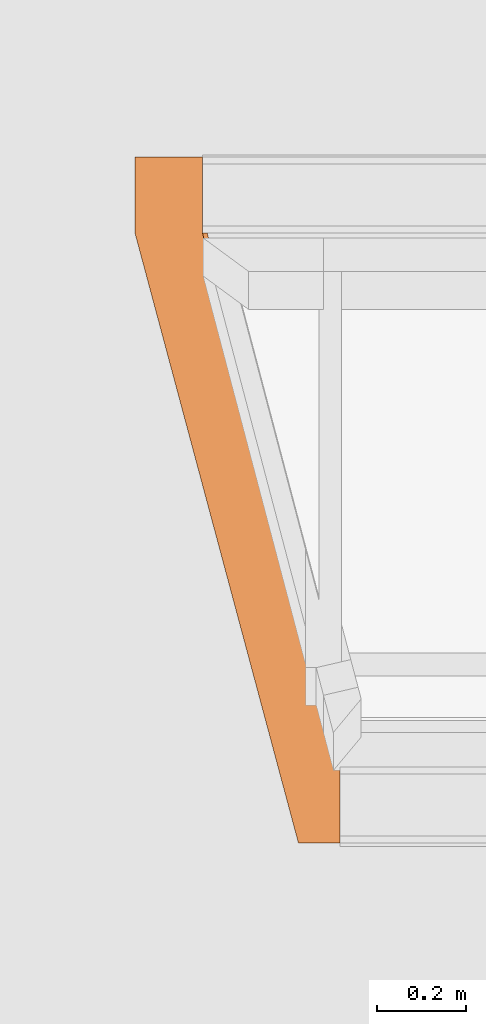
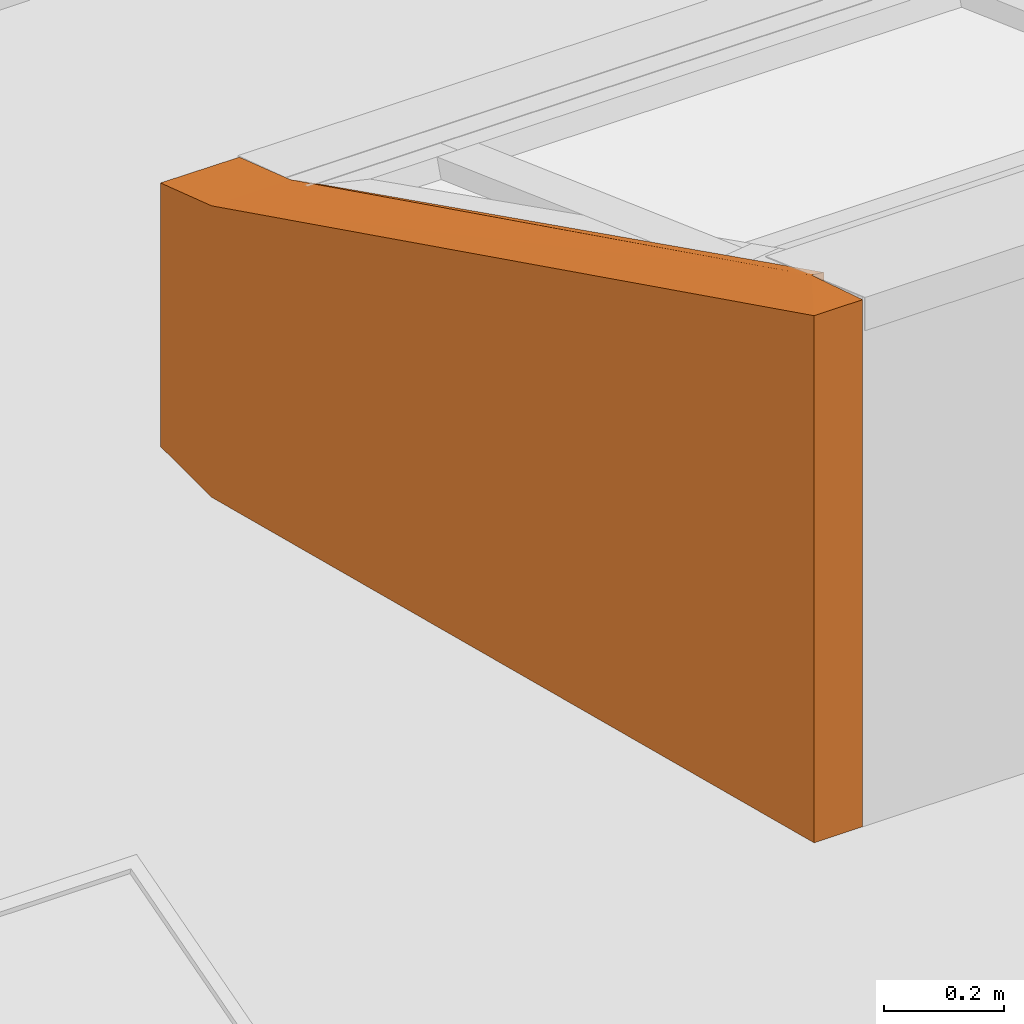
# One storey, part 16 of 20: 1 proxy.
"""IFC2X3 building model written with IfcOpenShell, lengths in millimetres."""

from ifc_helpers import new_model, entity, si_unit, converted_unit, derived_unit, money_unit, direction, frame, origin_with_axes, place, context, subcontext, project, spatial, faceted_brep, source, transform, mapped, material, type_object, type_shapes, element, save


model = new_model("IFC2X3")

# Units and contexts
model_context = context("Model", 3, precision=0.01, world=origin_with_axes(), true_north=direction((0.0, 1.0)))
plan_context = context("Plan", 3, precision=0.01, world=origin_with_axes(), true_north=direction((0.0, 1.0)))
body_context = subcontext(model_context, "Body", "Model", "MODEL_VIEW")
ifc_project = project(units=[si_unit("LENGTHUNIT", "METRE", prefix="MILLI"), si_unit("AREAUNIT", "SQUARE_METRE"), si_unit("VOLUMEUNIT", "CUBIC_METRE"), converted_unit("PLANEANGLEUNIT", "DEGREE", entity("IfcPlaneAngleMeasure", 0.0174532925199), si_unit("PLANEANGLEUNIT", "RADIAN"), dimensions=[0, 0, 0, 0, 0, 0, 0]), si_unit("SOLIDANGLEUNIT", "STERADIAN"), money_unit("EUR"), converted_unit("TIMEUNIT", "Year", entity("IfcTimeMeasure", 31556926.0), si_unit("TIMEUNIT", "SECOND"), dimensions=[0, 0, 1, 0, 0, 0, 0]), si_unit("MASSUNIT", "GRAM", prefix="KILO"), si_unit("THERMODYNAMICTEMPERATUREUNIT", "DEGREE_CELSIUS"), si_unit("LUMINOUSINTENSITYUNIT", "LUMEN"), si_unit("ENERGYUNIT", "JOULE", prefix="MEGA"), derived_unit("THERMALCONDUCTANCEUNIT", [(si_unit("POWERUNIT", "WATT"), 1), (si_unit("LENGTHUNIT", "METRE"), -1), (si_unit("THERMODYNAMICTEMPERATUREUNIT", "KELVIN"), -1)]), derived_unit("SPECIFICHEATCAPACITYUNIT", [(si_unit("ENERGYUNIT", "JOULE"), 1), (si_unit("MASSUNIT", "GRAM", prefix="KILO"), -1), (si_unit("THERMODYNAMICTEMPERATUREUNIT", "KELVIN"), -1)]), derived_unit("MASSDENSITYUNIT", [(si_unit("MASSUNIT", "GRAM", prefix="KILO"), 1), (si_unit("VOLUMEUNIT", "CUBIC_METRE"), -1)])], contexts=[model_context, plan_context])

# Site, building, storey
site_placement = place(None, origin_with_axes())
site = spatial("IfcSite", under=ifc_project, at=site_placement, Name="Site", CompositionType="ELEMENT")
building_placement = place(site_placement, origin_with_axes())
building = spatial("IfcBuilding", under=site, at=building_placement, Name="Naam gebouw", CompositionType="ELEMENT")
storey_placement = place(building_placement, frame((0.0, 0.0, 7920.0), z_axis=(0.0, 0.0, 1.0), x_axis=(1.0, 0.0, 0.0)))
storey = spatial("IfcBuildingStorey", under=building, at=storey_placement, Name="2e verdieping", CompositionType="ELEMENT", Elevation=7920.0)

# Proxy
ifc_material = material(Name="ALG - BINNENAFWERKING")
building_element_proxy_type = type_object("IfcBuildingElementProxyType", Name="ALG - BINNENAFWERKING", PredefinedType="USERDEFINED")
shared_shape = source(origin_with_axes(), body_context, "Body", "Brep", [
    faceted_brep([(-151.674835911, 0.0, 0.0), (-151.674835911, -170.000015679, 0.0), (-151.674835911, -170.000015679, 592.081900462), (-151.674835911, 0.0, 535.485499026), (0.0, 0.0, 0.0), (0.0, -170.000015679, 0.0), (10.5698879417, -170.000015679, 0.0), (332.096657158, -1369.95425439, 0.0), (308.667905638, -1369.95425439, 0.0), (308.667905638, -1539.94574511, 0.0), (215.401015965, -1539.94574511, 0.0), (215.401015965, -1539.94574511, 1070.97099805), (0.0, -170.000015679, 592.081900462), (0.0, 0.0, 534.743913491), (10.5698879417, -170.000015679, 587.840020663), (332.096657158, -1369.95425439, 1015.28052611), (308.667905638, -1369.95425439, 1017.68821331), (308.667905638, -1539.94574511, 1070.97099805)], [[[0, 1, 2, 3]], [[1, 0, 4, 5, 6, 7, 8, 9, 10]], [[2, 1, 10, 11]], [[3, 2, 12]], [[4, 0, 3, 13]], [[5, 4, 13, 12]], [[6, 5, 12, 14]], [[6, 14, 15, 7]], [[8, 7, 15, 16]], [[9, 8, 16, 17]], [[10, 9, 17, 11]], [[16, 2, 11]], [[2, 16, 12]], [[13, 3, 12]], [[14, 12, 16]], [[16, 15, 14]], [[17, 16, 11]]]),
])
type_shapes(building_element_proxy_type, [shared_shape])
proxy_placement = place(storey_placement, frame((13267.3454464, 22374.9869372, 245.0), z_axis=(0.0, 0.0, 1.0), x_axis=(1.0, 0.0, 0.0)))
element("IfcBuildingElementProxy", 1, at=proxy_placement, inside=storey, type_object=building_element_proxy_type, material=ifc_material, Name="_Massa_OMG Morph", ObjectType="Massing", context=body_context, shape_type="MappedRepresentation", body=[
    mapped(shared_shape, transform((0.0, 0.0, 0.0))),
])

save(model, "model.ifc")
